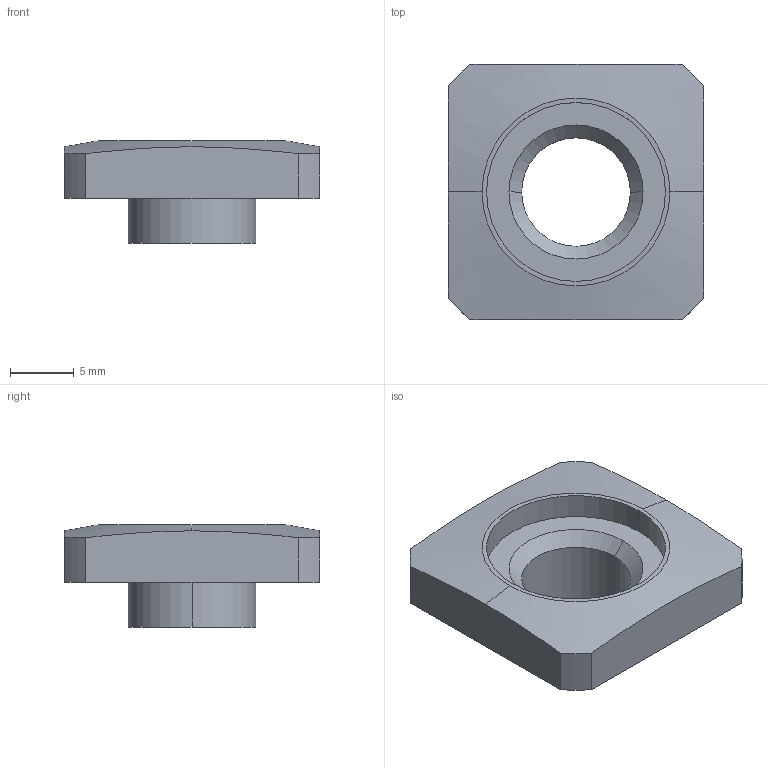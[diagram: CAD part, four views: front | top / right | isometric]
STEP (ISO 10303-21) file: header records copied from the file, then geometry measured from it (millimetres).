
FILE_DESCRIPTION((''),'2;1');
FILE_NAME('ROQ0810','2002-12-27T',('Lipro doo'),('Lipro d.o.o.'),'PRO/ENGINEER BY PARAMETRIC TECHNOLOGY CORPORATION, 2001150','PRO/ENGINEER BY PARAMETRIC TECHNOLOGY CORPORATION, 2001150','');
FILE_SCHEMA(('CONFIG_CONTROL_DESIGN'));
Length unit declared in the file: millimetre
Products named in the file (1): ROQ0810
Bounding box: 20 x 20 x 8 mm (x, y, z)
Volume: 1299.1 mm3; surface area: 1312.3 mm2
Topology: 1 solids, 1 shells, 22 faces, 52 edges, 34 vertices
Faces by surface type: cylinder 10, plane 8, cone 4
Entity records: 724 total; most frequent: CARTESIAN_POINT 158, DIRECTION 114, ORIENTED_EDGE 104, EDGE_CURVE 52, AXIS2_PLACEMENT_3D 46, VERTEX_POINT 34, EDGE_LOOP 26, CIRCLE 24
